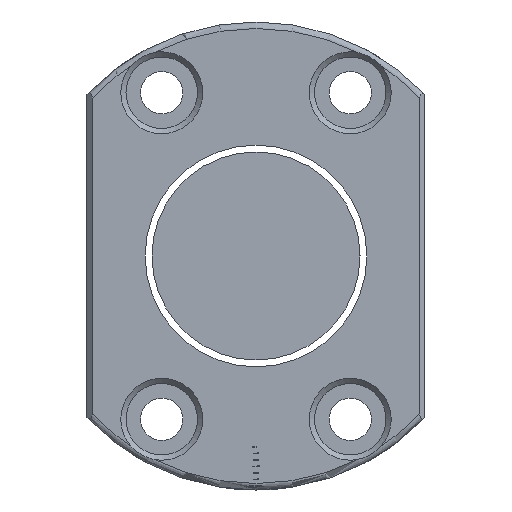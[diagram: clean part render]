
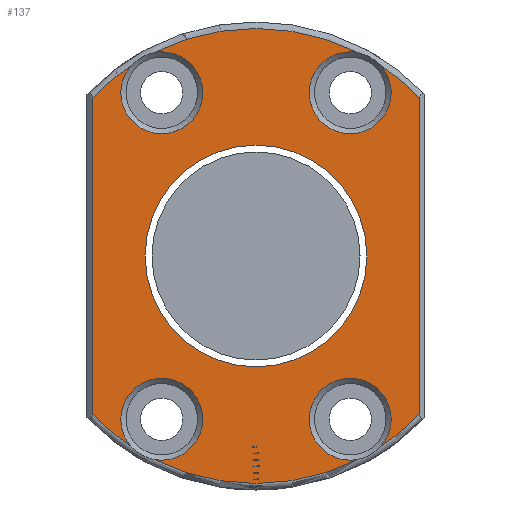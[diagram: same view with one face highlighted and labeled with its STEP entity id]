
A CAD part, left-side view. The second image highlights one B-rep face of the part: STEP entity #137.
In plain terms, the highlighted planar face has unit normal (-1, 0, 0).
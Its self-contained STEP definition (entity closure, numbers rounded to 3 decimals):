
#6 = CIRCLE ( 'NONE', #2772, 6.3 ) ;
#72 = CIRCLE ( 'NONE', #938, 35. ) ;
#73 = CARTESIAN_POINT ( 'NONE',  ( -87., 14.5, -25.115 ) ) ;
#81 = CARTESIAN_POINT ( 'NONE',  ( -87., 25.2, -24.289 ) ) ;
#92 = VERTEX_POINT ( 'NONE', #3013 ) ;
#96 = DIRECTION ( 'NONE',  ( 1., 0., 0. ) ) ;
#129 = VERTEX_POINT ( 'NONE', #81 ) ;
#137 = ADVANCED_FACE ( 'NONE', ( #3087, #3353 ), #1855, .T. ) ;
#145 = VERTEX_POINT ( 'NONE', #761 ) ;
#147 = VERTEX_POINT ( 'NONE', #1262 ) ;
#159 = EDGE_CURVE ( 'NONE', #129, #147, #3569, .T. ) ;
#176 = ORIENTED_EDGE ( 'NONE', *, *, #262, .T. ) ;
#177 = AXIS2_PLACEMENT_3D ( 'NONE', #73, #3821, #328 ) ;
#189 = CIRCLE ( 'NONE', #2162, 35. ) ;
#208 = EDGE_CURVE ( 'NONE', #406, #564, #3201, .T. ) ;
#229 = DIRECTION ( 'NONE',  ( 0., -1., 0. ) ) ;
#237 = VERTEX_POINT ( 'NONE', #3623 ) ;
#262 = EDGE_CURVE ( 'NONE', #564, #2013, #3016, .T. ) ;
#318 = ORIENTED_EDGE ( 'NONE', *, *, #854, .T. ) ;
#328 = DIRECTION ( 'NONE',  ( 0., -1., 0. ) ) ;
#366 = EDGE_LOOP ( 'NONE', ( #521, #2058, #3250, #3753, #1619, #176, #1802, #1172, #1703, #1073, #318, #1050 ) ) ;
#406 = VERTEX_POINT ( 'NONE', #2791 ) ;
#418 = DIRECTION ( 'NONE',  ( -1., 0., 0. ) ) ;
#425 = VERTEX_POINT ( 'NONE', #762 ) ;
#497 = CARTESIAN_POINT ( 'NONE',  ( -87., -14.5, 25.115 ) ) ;
#521 = ORIENTED_EDGE ( 'NONE', *, *, #1003, .T. ) ;
#549 = AXIS2_PLACEMENT_3D ( 'NONE', #2725, #711, #2780 ) ;
#564 = VERTEX_POINT ( 'NONE', #2433 ) ;
#588 = DIRECTION ( 'NONE',  ( 0., 1., 0. ) ) ;
#592 = EDGE_CURVE ( 'NONE', #2013, #129, #648, .T. ) ;
#625 = ORIENTED_EDGE ( 'NONE', *, *, #1951, .T. ) ;
#638 = DIRECTION ( 'NONE',  ( -1., 0., 0. ) ) ;
#648 = LINE ( 'NONE', #1541, #1294 ) ;
#669 = AXIS2_PLACEMENT_3D ( 'NONE', #3633, #2448, #2732 ) ;
#674 = EDGE_CURVE ( 'NONE', #147, #3534, #3690, .T. ) ;
#704 = CARTESIAN_POINT ( 'NONE',  ( -87., 0., 0. ) ) ;
#711 = DIRECTION ( 'NONE',  ( -1., 0., 0. ) ) ;
#761 = CARTESIAN_POINT ( 'NONE',  ( -87., 17.05, 0. ) ) ;
#762 = CARTESIAN_POINT ( 'NONE',  ( -87., -25.2, -24.289 ) ) ;
#784 = CARTESIAN_POINT ( 'NONE',  ( -87., -19.295, 29.201 ) ) ;
#803 = AXIS2_PLACEMENT_3D ( 'NONE', #886, #3234, #588 ) ;
#842 = DIRECTION ( 'NONE',  ( -1., 0., 0. ) ) ;
#854 = EDGE_CURVE ( 'NONE', #3536, #237, #3265, .T. ) ;
#886 = CARTESIAN_POINT ( 'NONE',  ( -87., 0., 0. ) ) ;
#895 = DIRECTION ( 'NONE',  ( 0., -1., 0. ) ) ;
#915 = CARTESIAN_POINT ( 'NONE',  ( -87., 0., 0. ) ) ;
#925 = DIRECTION ( 'NONE',  ( 0., 0., -1. ) ) ;
#930 = AXIS2_PLACEMENT_3D ( 'NONE', #3031, #418, #1568 ) ;
#933 = CIRCLE ( 'NONE', #1424, 35. ) ;
#938 = AXIS2_PLACEMENT_3D ( 'NONE', #1578, #977, #1289 ) ;
#977 = DIRECTION ( 'NONE',  ( -1., 0., 0. ) ) ;
#1003 = EDGE_CURVE ( 'NONE', #425, #92, #1964, .T. ) ;
#1050 = ORIENTED_EDGE ( 'NONE', *, *, #3780, .T. ) ;
#1073 = ORIENTED_EDGE ( 'NONE', *, *, #3735, .T. ) ;
#1074 = CARTESIAN_POINT ( 'NONE',  ( -87., 0., 0. ) ) ;
#1142 = EDGE_CURVE ( 'NONE', #3434, #2267, #6, .T. ) ;
#1172 = ORIENTED_EDGE ( 'NONE', *, *, #159, .T. ) ;
#1188 = AXIS2_PLACEMENT_3D ( 'NONE', #915, #638, #895 ) ;
#1262 = CARTESIAN_POINT ( 'NONE',  ( -87., 19.295, -29.201 ) ) ;
#1278 = DIRECTION ( 'NONE',  ( 0., -1., 0. ) ) ;
#1289 = DIRECTION ( 'NONE',  ( 0., -1., 0. ) ) ;
#1294 = VECTOR ( 'NONE', #925, 1000. ) ;
#1319 = DIRECTION ( 'NONE',  ( -1., 0., 0. ) ) ;
#1424 = AXIS2_PLACEMENT_3D ( 'NONE', #1074, #842, #2843 ) ;
#1490 = VECTOR ( 'NONE', #3661, 1000. ) ;
#1525 = CARTESIAN_POINT ( 'NONE',  ( -87., 15.641, -31.31 ) ) ;
#1541 = CARTESIAN_POINT ( 'NONE',  ( -87., 25.2, -24.9 ) ) ;
#1568 = DIRECTION ( 'NONE',  ( 0., -1., 0. ) ) ;
#1578 = CARTESIAN_POINT ( 'NONE',  ( -87., 0., 0. ) ) ;
#1599 = EDGE_LOOP ( 'NONE', ( #625 ) ) ;
#1619 = ORIENTED_EDGE ( 'NONE', *, *, #208, .T. ) ;
#1703 = ORIENTED_EDGE ( 'NONE', *, *, #674, .T. ) ;
#1797 = EDGE_CURVE ( 'NONE', #2267, #406, #933, .T. ) ;
#1802 = ORIENTED_EDGE ( 'NONE', *, *, #592, .T. ) ;
#1855 = PLANE ( 'NONE',  #549 ) ;
#1883 = DIRECTION ( 'NONE',  ( -1., 0., 0. ) ) ;
#1951 = EDGE_CURVE ( 'NONE', #145, #145, #3576, .T. ) ;
#1964 = LINE ( 'NONE', #2496, #1490 ) ;
#1973 = CIRCLE ( 'NONE', #1188, 35. ) ;
#2013 = VERTEX_POINT ( 'NONE', #2663 ) ;
#2058 = ORIENTED_EDGE ( 'NONE', *, *, #2778, .T. ) ;
#2162 = AXIS2_PLACEMENT_3D ( 'NONE', #704, #1883, #3059 ) ;
#2267 = VERTEX_POINT ( 'NONE', #3261 ) ;
#2433 = CARTESIAN_POINT ( 'NONE',  ( -87., 19.295, 29.201 ) ) ;
#2448 = DIRECTION ( 'NONE',  ( 1., 0., 0. ) ) ;
#2457 = CARTESIAN_POINT ( 'NONE',  ( -87., 14.5, 25.115 ) ) ;
#2496 = CARTESIAN_POINT ( 'NONE',  ( -87., -25.2, 24.9 ) ) ;
#2497 = DIRECTION ( 'NONE',  ( 0., -1., 0. ) ) ;
#2663 = CARTESIAN_POINT ( 'NONE',  ( -87., 25.2, 24.289 ) ) ;
#2725 = CARTESIAN_POINT ( 'NONE',  ( -87., 36., 0. ) ) ;
#2732 = DIRECTION ( 'NONE',  ( 0., -1., 0. ) ) ;
#2772 = AXIS2_PLACEMENT_3D ( 'NONE', #497, #2833, #229 ) ;
#2778 = EDGE_CURVE ( 'NONE', #92, #3434, #1973, .T. ) ;
#2780 = DIRECTION ( 'NONE',  ( 0., -1., 0. ) ) ;
#2791 = CARTESIAN_POINT ( 'NONE',  ( -87., 15.641, 31.31 ) ) ;
#2833 = DIRECTION ( 'NONE',  ( 1., 0., 0. ) ) ;
#2843 = DIRECTION ( 'NONE',  ( 0., -1., 0. ) ) ;
#2894 = AXIS2_PLACEMENT_3D ( 'NONE', #2457, #96, #1278 ) ;
#2990 = CARTESIAN_POINT ( 'NONE',  ( -87., -15.641, -31.31 ) ) ;
#3013 = CARTESIAN_POINT ( 'NONE',  ( -87., -25.2, 24.289 ) ) ;
#3016 = CIRCLE ( 'NONE', #3506, 35. ) ;
#3031 = CARTESIAN_POINT ( 'NONE',  ( -87., 0., 0. ) ) ;
#3059 = DIRECTION ( 'NONE',  ( 0., -1., 0. ) ) ;
#3087 = FACE_OUTER_BOUND ( 'NONE', #366, .T. ) ;
#3201 = CIRCLE ( 'NONE', #2894, 6.3 ) ;
#3234 = DIRECTION ( 'NONE',  ( 1., 0., 0. ) ) ;
#3250 = ORIENTED_EDGE ( 'NONE', *, *, #1142, .T. ) ;
#3261 = CARTESIAN_POINT ( 'NONE',  ( -87., -15.641, 31.31 ) ) ;
#3265 = CIRCLE ( 'NONE', #669, 6.3 ) ;
#3353 = FACE_BOUND ( 'NONE', #1599, .T. ) ;
#3434 = VERTEX_POINT ( 'NONE', #784 ) ;
#3506 = AXIS2_PLACEMENT_3D ( 'NONE', #3681, #1319, #2497 ) ;
#3534 = VERTEX_POINT ( 'NONE', #1525 ) ;
#3536 = VERTEX_POINT ( 'NONE', #2990 ) ;
#3569 = CIRCLE ( 'NONE', #930, 35. ) ;
#3576 = CIRCLE ( 'NONE', #803, 17.05 ) ;
#3623 = CARTESIAN_POINT ( 'NONE',  ( -87., -19.295, -29.201 ) ) ;
#3633 = CARTESIAN_POINT ( 'NONE',  ( -87., -14.5, -25.115 ) ) ;
#3661 = DIRECTION ( 'NONE',  ( 0., 0., 1. ) ) ;
#3681 = CARTESIAN_POINT ( 'NONE',  ( -87., 0., 0. ) ) ;
#3690 = CIRCLE ( 'NONE', #177, 6.3 ) ;
#3735 = EDGE_CURVE ( 'NONE', #3534, #3536, #72, .T. ) ;
#3753 = ORIENTED_EDGE ( 'NONE', *, *, #1797, .T. ) ;
#3780 = EDGE_CURVE ( 'NONE', #237, #425, #189, .T. ) ;
#3821 = DIRECTION ( 'NONE',  ( 1., 0., 0. ) ) ;
